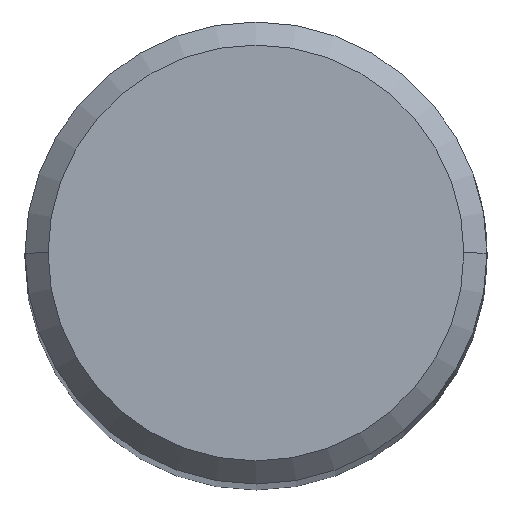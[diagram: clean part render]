
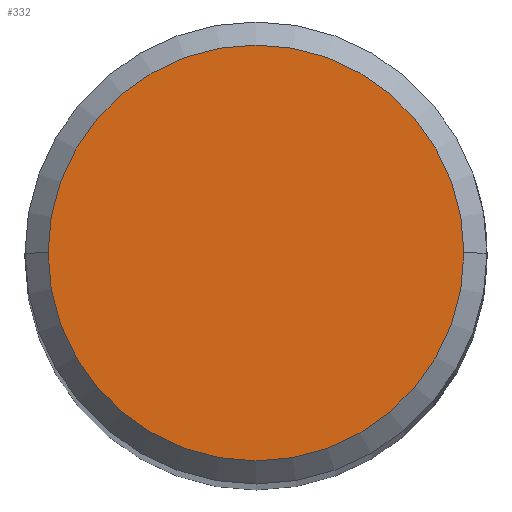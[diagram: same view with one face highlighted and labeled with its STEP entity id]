
A CAD part, top view. The second image highlights one B-rep face of the part: STEP entity #332.
In plain terms, the highlighted planar face has unit normal (0, 0, 1).
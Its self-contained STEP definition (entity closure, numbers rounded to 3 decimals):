
#6 = FACE_OUTER_BOUND ( 'NONE', #344, .T. ) ;
#17 = DIRECTION ( 'NONE',  ( 0., 0., -1. ) ) ;
#20 = DIRECTION ( 'NONE',  ( -1., 0., 0. ) ) ;
#26 = DIRECTION ( 'NONE',  ( 0., 0., -1. ) ) ;
#74 = CARTESIAN_POINT ( 'NONE',  ( 0., 0., 0. ) ) ;
#100 = CARTESIAN_POINT ( 'NONE',  ( 0., 0., 0. ) ) ;
#120 = DIRECTION ( 'NONE',  ( -1., 0., 0. ) ) ;
#139 = ORIENTED_EDGE ( 'NONE', *, *, #175, .F. ) ;
#144 = EDGE_CURVE ( 'NONE', #509, #354, #162, .T. ) ;
#162 = CIRCLE ( 'NONE', #378, 9. ) ;
#175 = EDGE_CURVE ( 'NONE', #354, #509, #481, .T. ) ;
#181 = PLANE ( 'NONE',  #275 ) ;
#185 = CARTESIAN_POINT ( 'NONE',  ( -9., 0., 0. ) ) ;
#270 = DIRECTION ( 'NONE',  ( -1., 0., 0. ) ) ;
#275 = AXIS2_PLACEMENT_3D ( 'NONE', #100, #398, #270 ) ;
#279 = CARTESIAN_POINT ( 'NONE',  ( 0., 0., 0. ) ) ;
#332 = ADVANCED_FACE ( 'NONE', ( #6 ), #181, .F. ) ;
#344 = EDGE_LOOP ( 'NONE', ( #506, #139 ) ) ;
#354 = VERTEX_POINT ( 'NONE', #557 ) ;
#378 = AXIS2_PLACEMENT_3D ( 'NONE', #74, #26, #120 ) ;
#398 = DIRECTION ( 'NONE',  ( 0., 0., -1. ) ) ;
#470 = AXIS2_PLACEMENT_3D ( 'NONE', #279, #17, #20 ) ;
#481 = CIRCLE ( 'NONE', #470, 9. ) ;
#506 = ORIENTED_EDGE ( 'NONE', *, *, #144, .F. ) ;
#509 = VERTEX_POINT ( 'NONE', #185 ) ;
#557 = CARTESIAN_POINT ( 'NONE',  ( 9., 0., 0. ) ) ;
